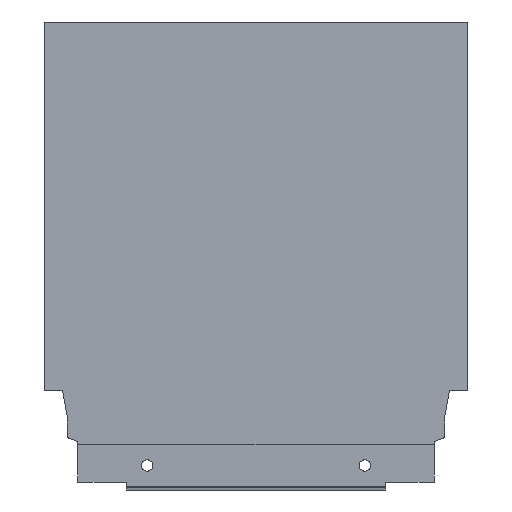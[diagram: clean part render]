
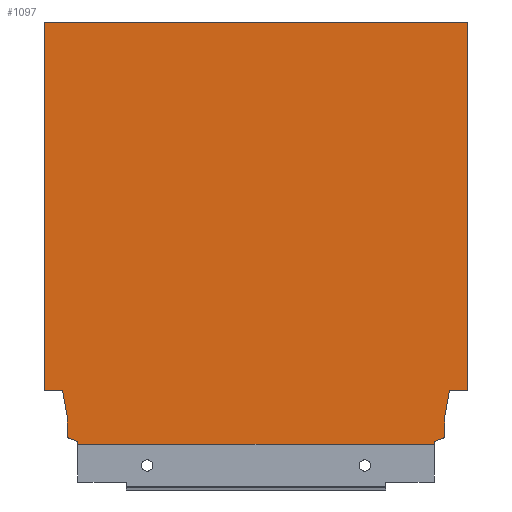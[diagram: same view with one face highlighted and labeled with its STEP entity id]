
A CAD part, top view. The second image highlights one B-rep face of the part: STEP entity #1097.
In plain terms, the highlighted planar face has unit normal (0, 0, 1).
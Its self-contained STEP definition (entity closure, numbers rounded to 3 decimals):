
#14 = CARTESIAN_POINT ( 'NONE',  ( 0., 164.7, 7.5 ) ) ;
#17 = CARTESIAN_POINT ( 'NONE',  ( -156.1, 10.765, 7.5 ) ) ;
#24 = CARTESIAN_POINT ( 'NONE',  ( -165., 21.2, 7.5 ) ) ;
#27 = CARTESIAN_POINT ( 'NONE',  ( -8.9, 2.64, 7.5 ) ) ;
#66 = DIRECTION ( 'NONE',  ( 0., 0., 1. ) ) ;
#81 = CARTESIAN_POINT ( 'NONE',  ( -13.004, 1.146, 7.5 ) ) ;
#85 = CARTESIAN_POINT ( 'NONE',  ( -156.1, 2.64, 7.5 ) ) ;
#87 = CARTESIAN_POINT ( 'NONE',  ( -165., 164.7, 7.5 ) ) ;
#92 = CARTESIAN_POINT ( 'NONE',  ( 0., 21.2, 7.5 ) ) ;
#94 = CARTESIAN_POINT ( 'NONE',  ( -151.996, 1.146, 7.5 ) ) ;
#95 = CARTESIAN_POINT ( 'NONE',  ( -157.94, 21.2, 7.5 ) ) ;
#98 = CARTESIAN_POINT ( 'NONE',  ( -8.9, 10.765, 7.5 ) ) ;
#114 = CARTESIAN_POINT ( 'NONE',  ( -151.996, 0., 7.5 ) ) ;
#121 = CARTESIAN_POINT ( 'NONE',  ( -13.004, 0., 7.5 ) ) ;
#130 = DIRECTION ( 'NONE',  ( 1., 0., 0. ) ) ;
#137 = CARTESIAN_POINT ( 'NONE',  ( -165., 0., 7.5 ) ) ;
#162 = CARTESIAN_POINT ( 'NONE',  ( -7.06, 21.2, 7.5 ) ) ;
#186 = PLANE ( 'NONE',  #1003 ) ;
#344 = EDGE_LOOP ( 'NONE', ( #440, #442, #464, #443, #465, #469, #445, #446, #468, #447, #448, #475, #477, #449 ) ) ;
#440 = ORIENTED_EDGE ( 'NONE', *, *, #959, .T. ) ;
#442 = ORIENTED_EDGE ( 'NONE', *, *, #965, .F. ) ;
#443 = ORIENTED_EDGE ( 'NONE', *, *, #962, .F. ) ;
#445 = ORIENTED_EDGE ( 'NONE', *, *, #925, .T. ) ;
#446 = ORIENTED_EDGE ( 'NONE', *, *, #960, .F. ) ;
#447 = ORIENTED_EDGE ( 'NONE', *, *, #957, .F. ) ;
#448 = ORIENTED_EDGE ( 'NONE', *, *, #955, .F. ) ;
#449 = ORIENTED_EDGE ( 'NONE', *, *, #951, .F. ) ;
#464 = ORIENTED_EDGE ( 'NONE', *, *, #964, .F. ) ;
#465 = ORIENTED_EDGE ( 'NONE', *, *, #961, .F. ) ;
#468 = ORIENTED_EDGE ( 'NONE', *, *, #958, .F. ) ;
#469 = ORIENTED_EDGE ( 'NONE', *, *, #928, .F. ) ;
#475 = ORIENTED_EDGE ( 'NONE', *, *, #953, .F. ) ;
#477 = ORIENTED_EDGE ( 'NONE', *, *, #956, .F. ) ;
#676 = VECTOR ( 'NONE', #1204, 1000. ) ;
#680 = LINE ( 'NONE', #1205, #676 ) ;
#693 = LINE ( 'NONE', #1212, #694 ) ;
#694 = VECTOR ( 'NONE', #1211, 1000. ) ;
#740 = LINE ( 'NONE', #1156, #741 ) ;
#741 = VECTOR ( 'NONE', #1155, 1000. ) ;
#744 = LINE ( 'NONE', #1152, #745 ) ;
#745 = VECTOR ( 'NONE', #1150, 1000. ) ;
#748 = LINE ( 'NONE', #1145, #749 ) ;
#749 = VECTOR ( 'NONE', #1143, 1000. ) ;
#750 = LINE ( 'NONE', #1141, #751 ) ;
#751 = VECTOR ( 'NONE', #1140, 1000. ) ;
#752 = LINE ( 'NONE', #1139, #753 ) ;
#753 = VECTOR ( 'NONE', #1138, 1000. ) ;
#754 = LINE ( 'NONE', #1137, #755 ) ;
#755 = VECTOR ( 'NONE', #1136, 1000. ) ;
#756 = LINE ( 'NONE', #1135, #757 ) ;
#757 = VECTOR ( 'NONE', #1133, 1000. ) ;
#758 = LINE ( 'NONE', #1132, #759 ) ;
#759 = VECTOR ( 'NONE', #1129, 1000. ) ;
#760 = LINE ( 'NONE', #1127, #761 ) ;
#761 = VECTOR ( 'NONE', #1126, 1000. ) ;
#762 = LINE ( 'NONE', #1125, #763 ) ;
#763 = VECTOR ( 'NONE', #1124, 1000. ) ;
#766 = LINE ( 'NONE', #1120, #767 ) ;
#767 = VECTOR ( 'NONE', #1119, 1000. ) ;
#768 = LINE ( 'NONE', #1116, #769 ) ;
#769 = VECTOR ( 'NONE', #1115, 1000. ) ;
#803 = FACE_OUTER_BOUND ( 'NONE', #344, .T. ) ;
#925 = EDGE_CURVE ( 'NONE', #1269, #1285, #693, .T. ) ;
#928 = EDGE_CURVE ( 'NONE', #1269, #1347, #680, .T. ) ;
#951 = EDGE_CURVE ( 'NONE', #1303, #1449, #740, .T. ) ;
#953 = EDGE_CURVE ( 'NONE', #1316, #1460, #744, .T. ) ;
#955 = EDGE_CURVE ( 'NONE', #1460, #1294, #748, .T. ) ;
#956 = EDGE_CURVE ( 'NONE', #1449, #1316, #750, .T. ) ;
#957 = EDGE_CURVE ( 'NONE', #1294, #1386, #752, .T. ) ;
#958 = EDGE_CURVE ( 'NONE', #1386, #1443, #754, .T. ) ;
#959 = EDGE_CURVE ( 'NONE', #1303, #1117, #756, .T. ) ;
#960 = EDGE_CURVE ( 'NONE', #1443, #1285, #758, .T. ) ;
#961 = EDGE_CURVE ( 'NONE', #1347, #1142, #760, .T. ) ;
#962 = EDGE_CURVE ( 'NONE', #1142, #1448, #762, .T. ) ;
#964 = EDGE_CURVE ( 'NONE', #1448, #1320, #766, .T. ) ;
#965 = EDGE_CURVE ( 'NONE', #1320, #1117, #768, .T. ) ;
#1003 = AXIS2_PLACEMENT_3D ( 'NONE', #137, #66, #130 ) ;
#1097 = ADVANCED_FACE ( 'NONE', ( #803 ), #186, .T. ) ;
#1115 = DIRECTION ( 'NONE',  ( -1., 0., 0. ) ) ;
#1116 = CARTESIAN_POINT ( 'NONE',  ( -170., 21.2, 7.5 ) ) ;
#1117 = VERTEX_POINT ( 'NONE', #24 ) ;
#1119 = DIRECTION ( 'NONE',  ( -0.174, 0.985, 0. ) ) ;
#1120 = CARTESIAN_POINT ( 'NONE',  ( -157.94, 21.2, 7.5 ) ) ;
#1124 = DIRECTION ( 'NONE',  ( 0., 1., 0. ) ) ;
#1125 = CARTESIAN_POINT ( 'NONE',  ( -156.1, 10.765, 7.5 ) ) ;
#1126 = DIRECTION ( 'NONE',  ( -0.94, 0.342, 0. ) ) ;
#1127 = CARTESIAN_POINT ( 'NONE',  ( -156.1, 2.64, 7.5 ) ) ;
#1129 = DIRECTION ( 'NONE',  ( 0., -1., 0. ) ) ;
#1132 = CARTESIAN_POINT ( 'NONE',  ( -13.004, 1.146, 7.5 ) ) ;
#1133 = DIRECTION ( 'NONE',  ( 0., -1., 0. ) ) ;
#1135 = CARTESIAN_POINT ( 'NONE',  ( -165., 0., 7.5 ) ) ;
#1136 = DIRECTION ( 'NONE',  ( -0.94, -0.342, 0. ) ) ;
#1137 = CARTESIAN_POINT ( 'NONE',  ( -8.9, 2.64, 7.5 ) ) ;
#1138 = DIRECTION ( 'NONE',  ( 0., -1., 0. ) ) ;
#1139 = CARTESIAN_POINT ( 'NONE',  ( -8.9, 10.765, 7.5 ) ) ;
#1140 = DIRECTION ( 'NONE',  ( 0., -1., 0. ) ) ;
#1141 = CARTESIAN_POINT ( 'NONE',  ( 0., 0., 7.5 ) ) ;
#1142 = VERTEX_POINT ( 'NONE', #85 ) ;
#1143 = DIRECTION ( 'NONE',  ( -0.174, -0.985, 0. ) ) ;
#1145 = CARTESIAN_POINT ( 'NONE',  ( -7.06, 21.2, 7.5 ) ) ;
#1150 = DIRECTION ( 'NONE',  ( -1., 0., 0. ) ) ;
#1152 = CARTESIAN_POINT ( 'NONE',  ( 0., 21.2, 7.5 ) ) ;
#1155 = DIRECTION ( 'NONE',  ( 1., 0., 0. ) ) ;
#1156 = CARTESIAN_POINT ( 'NONE',  ( -165., 164.7, 7.5 ) ) ;
#1204 = DIRECTION ( 'NONE',  ( 0., 1., 0. ) ) ;
#1205 = CARTESIAN_POINT ( 'NONE',  ( -151.996, 1.146, 7.5 ) ) ;
#1211 = DIRECTION ( 'NONE',  ( 1., 0., 0. ) ) ;
#1212 = CARTESIAN_POINT ( 'NONE',  ( -165., 0., 7.5 ) ) ;
#1269 = VERTEX_POINT ( 'NONE', #114 ) ;
#1285 = VERTEX_POINT ( 'NONE', #121 ) ;
#1294 = VERTEX_POINT ( 'NONE', #98 ) ;
#1303 = VERTEX_POINT ( 'NONE', #87 ) ;
#1316 = VERTEX_POINT ( 'NONE', #92 ) ;
#1320 = VERTEX_POINT ( 'NONE', #95 ) ;
#1347 = VERTEX_POINT ( 'NONE', #94 ) ;
#1386 = VERTEX_POINT ( 'NONE', #27 ) ;
#1443 = VERTEX_POINT ( 'NONE', #81 ) ;
#1448 = VERTEX_POINT ( 'NONE', #17 ) ;
#1449 = VERTEX_POINT ( 'NONE', #14 ) ;
#1460 = VERTEX_POINT ( 'NONE', #162 ) ;
